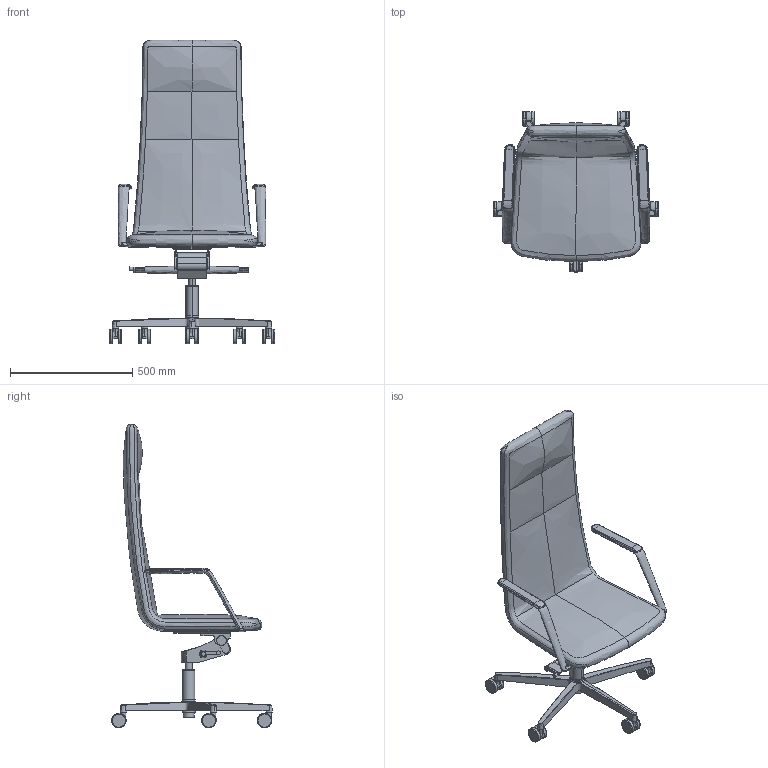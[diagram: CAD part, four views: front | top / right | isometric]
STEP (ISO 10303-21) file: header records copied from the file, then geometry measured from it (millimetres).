
FILE_DESCRIPTION(/* description */ (''),/* implementation_level */ '2;1');
FILE_NAME(/* name */ 'HARMON~1',/* time_stamp */ '2016-07-26T15:08:32+02:00',/* author */ (''),/* organization */ (''),/* preprocessor_version */ 'ST-DEVELOPER v15',/* originating_system */ '',/* authorisation */ '');
FILE_SCHEMA (('CONFIG_CONTROL_DESIGN'));
Length unit declared in the file: millimetre
Products named in the file (1): Document
Bounding box: 677.7 x 659.54 x 1244.86 mm (x, y, z)
Volume: 2104050.3 mm3; surface area: 1961883.4 mm2
Topology: 12 solids, 43 shells, 349 faces, 821 edges, 524 vertices
Faces by surface type: bspline 265, plane 84
Entity records: 22012 total; most frequent: CARTESIAN_POINT 17394, ORIENTED_EDGE 1517, EDGE_CURVE 814, VERTEX_POINT 518, EDGE_LOOP 353, ADVANCED_FACE 349, FACE_OUTER_BOUND 349, B_SPLINE_CURVE_WITH_KNOTS 230
